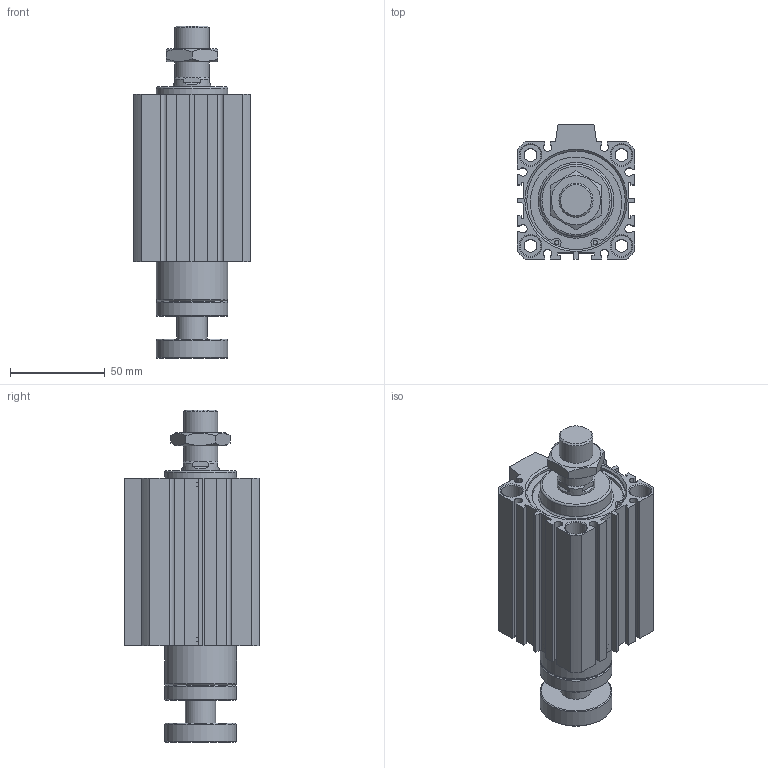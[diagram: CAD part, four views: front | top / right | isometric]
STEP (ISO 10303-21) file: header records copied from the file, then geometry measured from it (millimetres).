
FILE_DESCRIPTION((''),'2;1');
FILE_NAME('I:\3D電子目錄\氣缸\JDAR\JDAR-B\JDAR50-B\JDAR50-B\JDAR50-B.stp','2007-09-05T11:40:29',('Administrator'),(''),'Autodesk Inventor 11','Autodesk Inventor 11','');
FILE_SCHEMA(('AUTOMOTIVE_DESIGN { 1 0 10303 214 1 1 1 1 }'));
Length unit declared in the file: millimetre
Products named in the file (3): JDAR50-B; R 形環 52
Assembly tree (3 placements, depth 2):
  JDAR50-B
    JDAR50-B
    R 形環 52  x2
Bounding box: 62 x 71 x 175.3 mm (x, y, z)
Volume: 361677.6 mm3; surface area: 68184 mm2
Topology: 3 solids, 3 shells, 204 faces, 493 edges, 321 vertices
Faces by surface type: plane 119, cylinder 56, cone 25, bspline 2, torus 2
Full cylindrical faces by diameter (mm): 2.3 x4, 2.7 x2, 6.8 x4, 11 x8, 16 x1, 18 x2, 20 x1, 38 x4, 52 x4, 55 x2
Entity records: 5422 total; most frequent: CARTESIAN_POINT 1023, DIRECTION 907, ORIENTED_EDGE 804, EDGE_CURVE 402, AXIS2_PLACEMENT_3D 329, VERTEX_POINT 295, EDGE_LOOP 285, VECTOR 249
